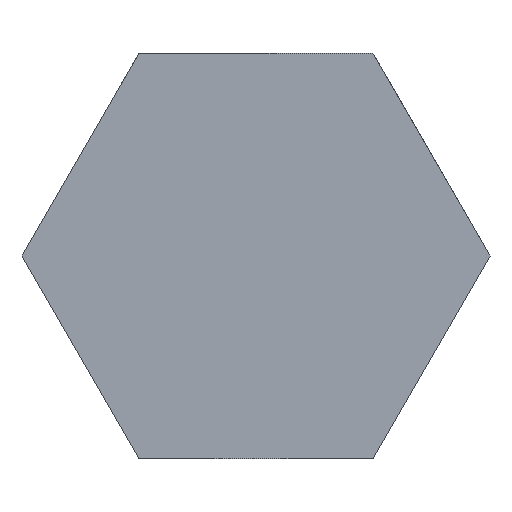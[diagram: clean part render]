
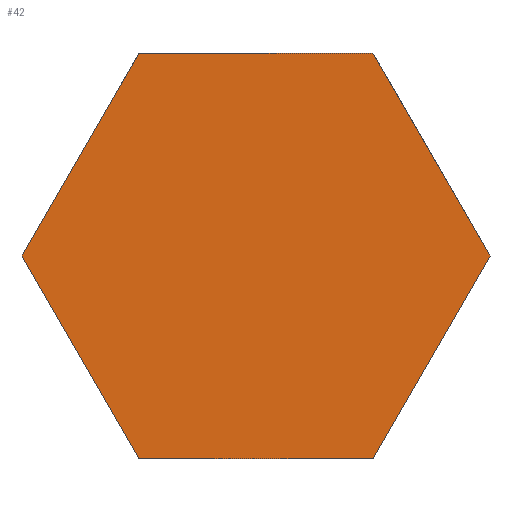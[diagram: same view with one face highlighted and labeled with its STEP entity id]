
A CAD part, left-side view. The second image highlights one B-rep face of the part: STEP entity #42.
In plain terms, the highlighted planar face has unit normal (-1, 0, 0).
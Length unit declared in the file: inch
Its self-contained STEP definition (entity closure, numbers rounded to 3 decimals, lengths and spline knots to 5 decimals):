
#11 = ORIENTED_EDGE ( 'NONE', *, *, #727, .F. ) ;
#28 = CARTESIAN_POINT ( 'NONE',  ( 0., 0.72169, 0.625 ) ) ;
#42 = ADVANCED_FACE ( 'NONE', ( #832 ), #179, .F. ) ;
#47 = DIRECTION ( 'NONE',  ( 0., 0.5, -0.866 ) ) ;
#67 = VERTEX_POINT ( 'NONE', #112 ) ;
#68 = ORIENTED_EDGE ( 'NONE', *, *, #743, .F. ) ;
#85 = VERTEX_POINT ( 'NONE', #903 ) ;
#95 = CARTESIAN_POINT ( 'NONE',  ( 0., -0.36084, 0. ) ) ;
#104 = CARTESIAN_POINT ( 'NONE',  ( 0., -0.72169, 0.625 ) ) ;
#112 = CARTESIAN_POINT ( 'NONE',  ( 0., 0.36084, 0. ) ) ;
#140 = LINE ( 'NONE', #717, #512 ) ;
#144 = EDGE_CURVE ( 'NONE', #85, #67, #245, .T. ) ;
#171 = VECTOR ( 'NONE', #378, 39.37008 ) ;
#179 = PLANE ( 'NONE',  #766 ) ;
#220 = LINE ( 'NONE', #383, #171 ) ;
#245 = LINE ( 'NONE', #394, #345 ) ;
#277 = ORIENTED_EDGE ( 'NONE', *, *, #821, .F. ) ;
#284 = DIRECTION ( 'NONE',  ( 0., 0.5, 0.866 ) ) ;
#309 = ORIENTED_EDGE ( 'NONE', *, *, #637, .F. ) ;
#340 = DIRECTION ( 'NONE',  ( 0., 1., 0. ) ) ;
#345 = VECTOR ( 'NONE', #671, 39.37008 ) ;
#374 = VECTOR ( 'NONE', #47, 39.37008 ) ;
#378 = DIRECTION ( 'NONE',  ( 0., -0.5, 0.866 ) ) ;
#383 = CARTESIAN_POINT ( 'NONE',  ( 0., 0.72169, 0.625 ) ) ;
#394 = CARTESIAN_POINT ( 'NONE',  ( 0., -0.36084, 0. ) ) ;
#395 = EDGE_CURVE ( 'NONE', #67, #525, #140, .T. ) ;
#446 = EDGE_LOOP ( 'NONE', ( #11, #277, #68, #309, #597, #570 ) ) ;
#455 = VERTEX_POINT ( 'NONE', #630 ) ;
#484 = LINE ( 'NONE', #571, #952 ) ;
#505 = VERTEX_POINT ( 'NONE', #919 ) ;
#511 = LINE ( 'NONE', #104, #374 ) ;
#512 = VECTOR ( 'NONE', #284, 39.37008 ) ;
#523 = DIRECTION ( 'NONE',  ( 0., -0.5, -0.866 ) ) ;
#525 = VERTEX_POINT ( 'NONE', #28 ) ;
#553 = CARTESIAN_POINT ( 'NONE',  ( 0., -0.36084, 1.25 ) ) ;
#570 = ORIENTED_EDGE ( 'NONE', *, *, #144, .F. ) ;
#571 = CARTESIAN_POINT ( 'NONE',  ( 0., 0.36084, 1.25 ) ) ;
#597 = ORIENTED_EDGE ( 'NONE', *, *, #395, .F. ) ;
#630 = CARTESIAN_POINT ( 'NONE',  ( 0., -0.72169, 0.625 ) ) ;
#637 = EDGE_CURVE ( 'NONE', #525, #505, #220, .T. ) ;
#671 = DIRECTION ( 'NONE',  ( 0., 1., 0. ) ) ;
#698 = DIRECTION ( 'NONE',  ( 1., 0., 0. ) ) ;
#717 = CARTESIAN_POINT ( 'NONE',  ( 0., 0.36084, 0. ) ) ;
#722 = VERTEX_POINT ( 'NONE', #553 ) ;
#726 = CARTESIAN_POINT ( 'NONE',  ( 0., -0.36084, 1.25 ) ) ;
#727 = EDGE_CURVE ( 'NONE', #455, #85, #511, .T. ) ;
#743 = EDGE_CURVE ( 'NONE', #505, #722, #484, .T. ) ;
#766 = AXIS2_PLACEMENT_3D ( 'NONE', #95, #698, #340 ) ;
#788 = VECTOR ( 'NONE', #523, 39.37008 ) ;
#821 = EDGE_CURVE ( 'NONE', #722, #455, #926, .T. ) ;
#832 = FACE_OUTER_BOUND ( 'NONE', #446, .T. ) ;
#867 = DIRECTION ( 'NONE',  ( 0., -1., 0. ) ) ;
#903 = CARTESIAN_POINT ( 'NONE',  ( 0., -0.36084, 0. ) ) ;
#919 = CARTESIAN_POINT ( 'NONE',  ( 0., 0.36084, 1.25 ) ) ;
#926 = LINE ( 'NONE', #726, #788 ) ;
#952 = VECTOR ( 'NONE', #867, 39.37008 ) ;
